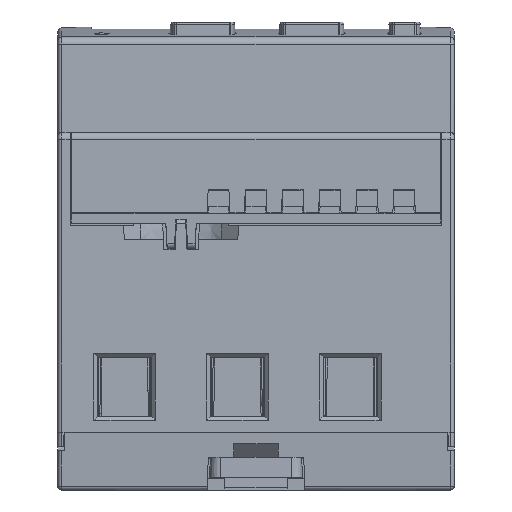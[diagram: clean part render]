
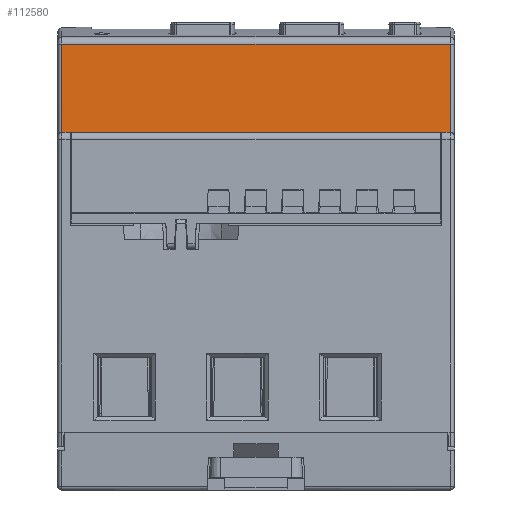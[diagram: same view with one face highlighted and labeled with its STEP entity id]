
A CAD part, front view. The second image highlights one B-rep face of the part: STEP entity #112580.
In plain terms, the highlighted planar face has unit normal (0, -1, 0.026).
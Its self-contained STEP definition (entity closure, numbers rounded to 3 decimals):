
#3515=PLANE('',#119341);
#8580=FACE_OUTER_BOUND('',#14394,.T.);
#14394=EDGE_LOOP('',(#88295,#88296,#88297,#88298,#88299,#88300));
#27141=LINE('',#187788,#39329);
#27142=LINE('',#187791,#39330);
#27148=LINE('',#187825,#39336);
#27149=LINE('',#187826,#39337);
#27150=LINE('',#187828,#39338);
#27151=LINE('',#187829,#39339);
#39329=VECTOR('',#138465,10.);
#39330=VECTOR('',#138468,10.);
#39336=VECTOR('',#138476,10.);
#39337=VECTOR('',#138477,10.);
#39338=VECTOR('',#138478,10.);
#39339=VECTOR('',#138479,10.);
#50387=VERTEX_POINT('',#187376);
#50428=VERTEX_POINT('',#187720);
#50441=VERTEX_POINT('',#187781);
#50443=VERTEX_POINT('',#187790);
#50450=VERTEX_POINT('',#187824);
#50451=VERTEX_POINT('',#187827);
#63794=EDGE_CURVE('',#50441,#50428,#27141,.T.);
#63795=EDGE_CURVE('',#50428,#50443,#27142,.T.);
#63803=EDGE_CURVE('',#50450,#50441,#27148,.T.);
#63804=EDGE_CURVE('',#50387,#50450,#27149,.T.);
#63805=EDGE_CURVE('',#50451,#50387,#27150,.T.);
#63806=EDGE_CURVE('',#50443,#50451,#27151,.T.);
#88295=ORIENTED_EDGE('',*,*,#63794,.F.);
#88296=ORIENTED_EDGE('',*,*,#63803,.F.);
#88297=ORIENTED_EDGE('',*,*,#63804,.F.);
#88298=ORIENTED_EDGE('',*,*,#63805,.F.);
#88299=ORIENTED_EDGE('',*,*,#63806,.F.);
#88300=ORIENTED_EDGE('',*,*,#63795,.F.);
#112580=ADVANCED_FACE('',(#8580),#3515,.T.);
#119341=AXIS2_PLACEMENT_3D('',#187823,#138474,#138475);
#138465=DIRECTION('',(0.,-0.026,-1.));
#138468=DIRECTION('',(-1.,0.,0.));
#138474=DIRECTION('center_axis',(0.,-1.,
0.026));
#138475=DIRECTION('ref_axis',(0.,0.026,
1.));
#138476=DIRECTION('',(1.,0.,0.));
#138477=DIRECTION('',(0.,0.026,1.));
#138478=DIRECTION('',(-1.,0.,0.));
#138479=DIRECTION('',(-1.,0.,0.));
#187376=CARTESIAN_POINT('',(-26.2,-22.397,25.2));
#187720=CARTESIAN_POINT('',(26.2,-22.397,25.2));
#187781=CARTESIAN_POINT('',(26.2,-22.086,37.077));
#187788=CARTESIAN_POINT('',(26.2,-22.754,11.569));
#187790=CARTESIAN_POINT('',(25.,-22.397,25.2));
#187791=CARTESIAN_POINT('',(-13.355,-22.397,25.2));
#187823=CARTESIAN_POINT('Origin',(0.,-22.706,
13.404));
#187824=CARTESIAN_POINT('',(-26.2,-22.086,37.077));
#187825=CARTESIAN_POINT('',(26.7,-22.086,37.077));
#187826=CARTESIAN_POINT('',(-26.2,-22.754,11.569));
#187827=CARTESIAN_POINT('',(-25.,-22.397,25.2));
#187828=CARTESIAN_POINT('',(-13.355,-22.397,25.2));
#187829=CARTESIAN_POINT('',(-13.355,-22.397,25.2));
